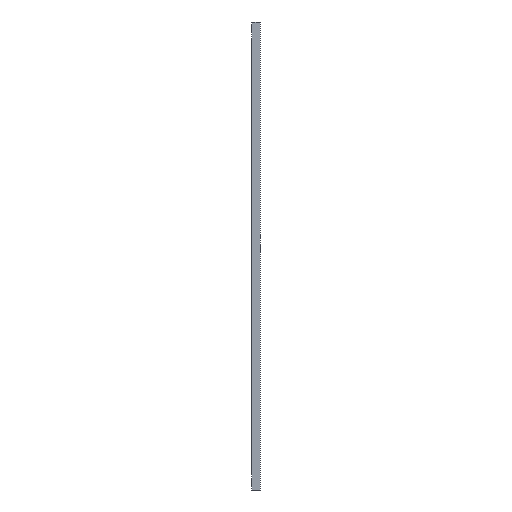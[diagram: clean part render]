
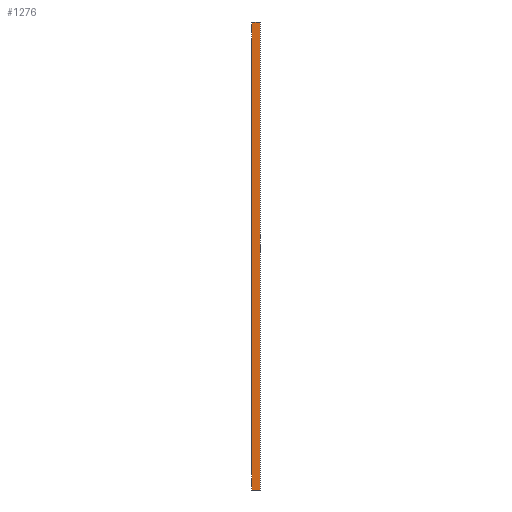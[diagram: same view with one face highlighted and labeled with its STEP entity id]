
A CAD part, left-side view. The second image highlights one B-rep face of the part: STEP entity #1276.
In plain terms, the highlighted planar face has unit normal (-1, 0, 0).
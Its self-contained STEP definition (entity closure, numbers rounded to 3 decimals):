
#17 = LINE ( 'NONE', #44, #144 ) ;
#24 = DIRECTION ( 'NONE',  ( 0., -1., 0. ) ) ;
#32 = ORIENTED_EDGE ( 'NONE', *, *, #455, .T. ) ;
#44 = CARTESIAN_POINT ( 'NONE',  ( -8., 0., 679. ) ) ;
#46 = CARTESIAN_POINT ( 'NONE',  ( -8., 0., 679. ) ) ;
#68 = CARTESIAN_POINT ( 'NONE',  ( -8., 12.5, 679. ) ) ;
#80 = ORIENTED_EDGE ( 'NONE', *, *, #1476, .F. ) ;
#144 = VECTOR ( 'NONE', #24, 1000. ) ;
#188 = EDGE_LOOP ( 'NONE', ( #965, #32, #80, #600, #1302, #534, #215, #1478 ) ) ;
#197 = VECTOR ( 'NONE', #980, 1000. ) ;
#215 = ORIENTED_EDGE ( 'NONE', *, *, #758, .T. ) ;
#219 = EDGE_CURVE ( 'NONE', #234, #226, #398, .T. ) ;
#226 = VERTEX_POINT ( 'NONE', #439 ) ;
#234 = VERTEX_POINT ( 'NONE', #312 ) ;
#252 = CARTESIAN_POINT ( 'NONE',  ( -8., 0., 0. ) ) ;
#288 = DIRECTION ( 'NONE',  ( -1., 0., 0. ) ) ;
#289 = VERTEX_POINT ( 'NONE', #833 ) ;
#309 = VECTOR ( 'NONE', #1355, 1000. ) ;
#312 = CARTESIAN_POINT ( 'NONE',  ( -8., 9.3, 0. ) ) ;
#344 = EDGE_CURVE ( 'NONE', #593, #935, #1315, .T. ) ;
#362 = CARTESIAN_POINT ( 'NONE',  ( -8., 0., 679. ) ) ;
#398 = LINE ( 'NONE', #874, #309 ) ;
#400 = EDGE_CURVE ( 'NONE', #1123, #1196, #17, .T. ) ;
#414 = LINE ( 'NONE', #68, #1253 ) ;
#428 = DIRECTION ( 'NONE',  ( 0., 1., 0. ) ) ;
#439 = CARTESIAN_POINT ( 'NONE',  ( -8., 12.5, 0. ) ) ;
#455 = EDGE_CURVE ( 'NONE', #1517, #289, #864, .T. ) ;
#472 = LINE ( 'NONE', #362, #664 ) ;
#495 = EDGE_CURVE ( 'NONE', #1517, #234, #850, .T. ) ;
#498 = LINE ( 'NONE', #982, #1190 ) ;
#534 = ORIENTED_EDGE ( 'NONE', *, *, #344, .T. ) ;
#574 = VECTOR ( 'NONE', #428, 1000. ) ;
#593 = VERTEX_POINT ( 'NONE', #653 ) ;
#600 = ORIENTED_EDGE ( 'NONE', *, *, #400, .F. ) ;
#640 = CARTESIAN_POINT ( 'NONE',  ( -8., 3.2, 0. ) ) ;
#653 = CARTESIAN_POINT ( 'NONE',  ( -8., 9.3, 679. ) ) ;
#664 = VECTOR ( 'NONE', #841, 1000. ) ;
#675 = DIRECTION ( 'NONE',  ( 0., 1., 0. ) ) ;
#678 = FACE_OUTER_BOUND ( 'NONE', #188, .T. ) ;
#731 = DIRECTION ( 'NONE',  ( 0., 1., 0. ) ) ;
#758 = EDGE_CURVE ( 'NONE', #935, #226, #414, .T. ) ;
#780 = AXIS2_PLACEMENT_3D ( 'NONE', #904, #288, #1026 ) ;
#833 = CARTESIAN_POINT ( 'NONE',  ( -8., 0., 0. ) ) ;
#841 = DIRECTION ( 'NONE',  ( 0., 0., -1. ) ) ;
#850 = LINE ( 'NONE', #252, #926 ) ;
#864 = LINE ( 'NONE', #1215, #197 ) ;
#874 = CARTESIAN_POINT ( 'NONE',  ( -8., 0., 0. ) ) ;
#904 = CARTESIAN_POINT ( 'NONE',  ( -8., 0., 679. ) ) ;
#926 = VECTOR ( 'NONE', #731, 1000. ) ;
#935 = VERTEX_POINT ( 'NONE', #937 ) ;
#937 = CARTESIAN_POINT ( 'NONE',  ( -8., 12.5, 679. ) ) ;
#965 = ORIENTED_EDGE ( 'NONE', *, *, #495, .F. ) ;
#980 = DIRECTION ( 'NONE',  ( 0., -1., 0. ) ) ;
#982 = CARTESIAN_POINT ( 'NONE',  ( -8., 0., 679. ) ) ;
#1026 = DIRECTION ( 'NONE',  ( 0., 0., 1. ) ) ;
#1033 = CARTESIAN_POINT ( 'NONE',  ( -8., 12.5, 679. ) ) ;
#1100 = EDGE_CURVE ( 'NONE', #1123, #593, #498, .T. ) ;
#1123 = VERTEX_POINT ( 'NONE', #1363 ) ;
#1190 = VECTOR ( 'NONE', #675, 1000. ) ;
#1196 = VERTEX_POINT ( 'NONE', #46 ) ;
#1215 = CARTESIAN_POINT ( 'NONE',  ( -8., 0., 0. ) ) ;
#1246 = PLANE ( 'NONE',  #780 ) ;
#1253 = VECTOR ( 'NONE', #1271, 1000. ) ;
#1271 = DIRECTION ( 'NONE',  ( 0., 0., -1. ) ) ;
#1276 = ADVANCED_FACE ( 'NONE', ( #678 ), #1246, .T. ) ;
#1302 = ORIENTED_EDGE ( 'NONE', *, *, #1100, .T. ) ;
#1315 = LINE ( 'NONE', #1033, #574 ) ;
#1355 = DIRECTION ( 'NONE',  ( 0., 1., 0. ) ) ;
#1363 = CARTESIAN_POINT ( 'NONE',  ( -8., 3.2, 679. ) ) ;
#1476 = EDGE_CURVE ( 'NONE', #1196, #289, #472, .T. ) ;
#1478 = ORIENTED_EDGE ( 'NONE', *, *, #219, .F. ) ;
#1517 = VERTEX_POINT ( 'NONE', #640 ) ;
